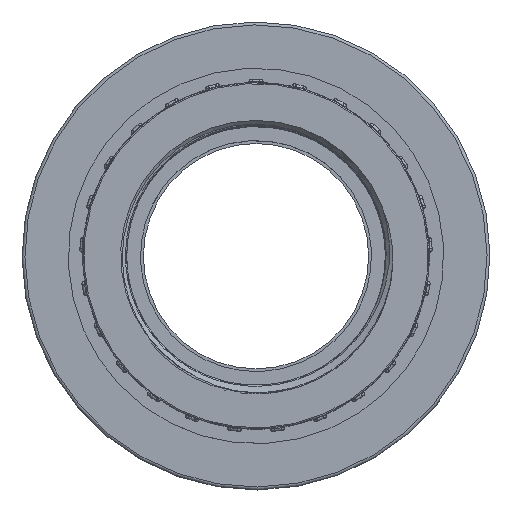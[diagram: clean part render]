
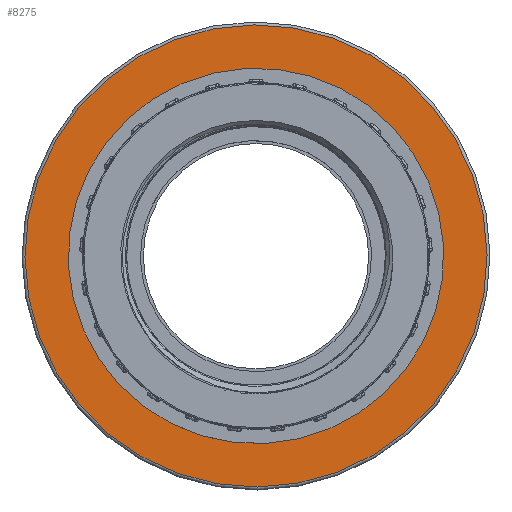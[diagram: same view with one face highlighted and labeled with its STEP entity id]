
A CAD part, top view. The second image highlights one B-rep face of the part: STEP entity #8275.
In plain terms, the highlighted planar face has unit normal (0, 0, 1).
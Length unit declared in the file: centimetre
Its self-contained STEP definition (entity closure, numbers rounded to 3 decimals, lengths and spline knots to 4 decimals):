
#1588=FACE_BOUND('',#2245,.T.);
#1766=FACE_OUTER_BOUND('',#2244,.T.);
#2244=EDGE_LOOP('',(#5997));
#2245=EDGE_LOOP('',(#5998));
#2744=CIRCLE('',#8878,4.);
#2745=CIRCLE('',#8879,3.25);
#3373=VERTEX_POINT('',#14668);
#3374=VERTEX_POINT('',#14670);
#4311=EDGE_CURVE('',#3373,#3373,#2744,.T.);
#4312=EDGE_CURVE('',#3374,#3374,#2745,.T.);
#5997=ORIENTED_EDGE('',*,*,#4311,.F.);
#5998=ORIENTED_EDGE('',*,*,#4312,.T.);
#7541=PLANE('',#8877);
#8275=ADVANCED_FACE('',(#1766,#1588),#7541,.T.);
#8877=AXIS2_PLACEMENT_3D('',#14667,#10189,#10190);
#8878=AXIS2_PLACEMENT_3D('',#14669,#10191,#10192);
#8879=AXIS2_PLACEMENT_3D('',#14671,#10193,#10194);
#10189=DIRECTION('center_axis',(0.,0.,
1.));
#10190=DIRECTION('ref_axis',(-0.493,-0.87,0.));
#10191=DIRECTION('center_axis',(0.,0.,
-1.));
#10192=DIRECTION('ref_axis',(0.87,-0.493,0.));
#10193=DIRECTION('center_axis',(0.,0.,
-1.));
#10194=DIRECTION('ref_axis',(-0.684,0.729,0.));
#14667=CARTESIAN_POINT('Origin',(-3.5225,1.9986,1.95));
#14668=CARTESIAN_POINT('',(-3.479,1.9739,1.95));
#14669=CARTESIAN_POINT('Origin',(0.,0.,
1.95));
#14670=CARTESIAN_POINT('',(2.2246,-2.3693,1.95));
#14671=CARTESIAN_POINT('Origin',(0.,0.,
1.95));
